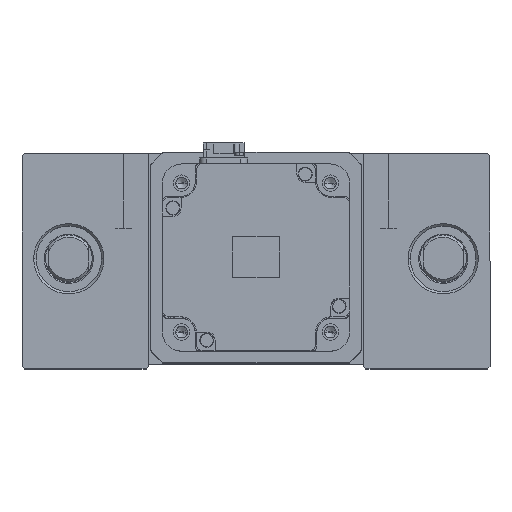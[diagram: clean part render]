
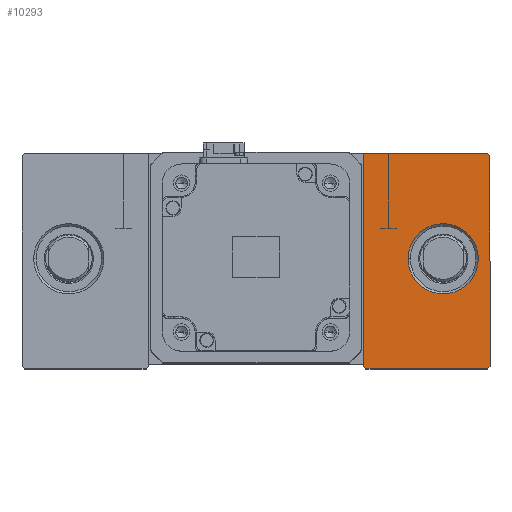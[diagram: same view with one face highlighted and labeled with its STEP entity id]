
A CAD part, top view. The second image highlights one B-rep face of the part: STEP entity #10293.
In plain terms, the highlighted planar face has unit normal (0, 0, 1).
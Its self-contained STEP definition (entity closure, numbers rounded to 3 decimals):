
#548 = AXIS2_PLACEMENT_3D ( 'NONE', #6106, #17792, #44971 ) ;
#861 = CARTESIAN_POINT ( 'NONE',  ( 46., -46., 35. ) ) ;
#911 = DIRECTION ( 'NONE',  ( 0., -1., 0. ) ) ;
#1255 = LINE ( 'NONE', #16057, #20615 ) ;
#1622 = EDGE_CURVE ( 'NONE', #10741, #15470, #42595, .T. ) ;
#1734 = DIRECTION ( 'NONE',  ( -0.707, 0.707, 0. ) ) ;
#2366 = CARTESIAN_POINT ( 'NONE',  ( 80., 0., 35. ) ) ;
#2502 = ORIENTED_EDGE ( 'NONE', *, *, #7634, .T. ) ;
#3038 = DIRECTION ( 'NONE',  ( 1., 0., 0. ) ) ;
#3700 = VERTEX_POINT ( 'NONE', #17049 ) ;
#3824 = DIRECTION ( 'NONE',  ( 0.707, -0.707, 0. ) ) ;
#4216 = VECTOR ( 'NONE', #1734, 1000. ) ;
#4484 = ORIENTED_EDGE ( 'NONE', *, *, #47811, .T. ) ;
#4574 = ORIENTED_EDGE ( 'NONE', *, *, #34009, .T. ) ;
#5190 = LINE ( 'NONE', #13729, #34954 ) ;
#5288 = CIRCLE ( 'NONE', #43554, 15. ) ;
#5610 = DIRECTION ( 'NONE',  ( 0.707, 0.707, 0. ) ) ;
#5796 = VERTEX_POINT ( 'NONE', #11182 ) ;
#6106 = CARTESIAN_POINT ( 'NONE',  ( 0., 0., 35. ) ) ;
#6239 = ORIENTED_EDGE ( 'NONE', *, *, #29839, .T. ) ;
#6259 = DIRECTION ( 'NONE',  ( 1., 0., 0. ) ) ;
#7162 = CARTESIAN_POINT ( 'NONE',  ( 46., 45., 35. ) ) ;
#7548 = EDGE_CURVE ( 'NONE', #8737, #29435, #25464, .T. ) ;
#7634 = EDGE_CURVE ( 'NONE', #3700, #46232, #1255, .T. ) ;
#8737 = VERTEX_POINT ( 'NONE', #861 ) ;
#9490 = CARTESIAN_POINT ( 'NONE',  ( 73., -73., 35. ) ) ;
#10293 = ADVANCED_FACE ( 'NONE', ( #31256, #22129 ), #41114, .T. ) ;
#10741 = VERTEX_POINT ( 'NONE', #28438 ) ;
#11182 = CARTESIAN_POINT ( 'NONE',  ( 65., 0., 35. ) ) ;
#13729 = CARTESIAN_POINT ( 'NONE',  ( 46., -47., 35. ) ) ;
#14726 = LINE ( 'NONE', #9490, #44491 ) ;
#15470 = VERTEX_POINT ( 'NONE', #7162 ) ;
#16057 = CARTESIAN_POINT ( 'NONE',  ( 100., 45., 35. ) ) ;
#16678 = AXIS2_PLACEMENT_3D ( 'NONE', #49596, #26269, #3038 ) ;
#17049 = CARTESIAN_POINT ( 'NONE',  ( 100., -46., 35. ) ) ;
#17718 = CIRCLE ( 'NONE', #16678, 15. ) ;
#17792 = DIRECTION ( 'NONE',  ( 0., 0., 1. ) ) ;
#19925 = DIRECTION ( 'NONE',  ( 0., 1., 0. ) ) ;
#20615 = VECTOR ( 'NONE', #19925, 1000. ) ;
#22129 = FACE_OUTER_BOUND ( 'NONE', #39153, .T. ) ;
#22151 = VECTOR ( 'NONE', #911, 1000. ) ;
#22556 = ORIENTED_EDGE ( 'NONE', *, *, #32410, .T. ) ;
#22873 = ORIENTED_EDGE ( 'NONE', *, *, #7548, .T. ) ;
#25077 = CARTESIAN_POINT ( 'NONE',  ( 72., 72., 35. ) ) ;
#25464 = LINE ( 'NONE', #30980, #35854 ) ;
#26269 = DIRECTION ( 'NONE',  ( 0., 0., -1. ) ) ;
#26639 = CARTESIAN_POINT ( 'NONE',  ( 47., -47., 35. ) ) ;
#28438 = CARTESIAN_POINT ( 'NONE',  ( 99., 45., 35. ) ) ;
#29435 = VERTEX_POINT ( 'NONE', #26639 ) ;
#29502 = DIRECTION ( 'NONE',  ( 0., 0., -1. ) ) ;
#29839 = EDGE_CURVE ( 'NONE', #33287, #5796, #5288, .T. ) ;
#30763 = EDGE_CURVE ( 'NONE', #29435, #37975, #5190, .T. ) ;
#30980 = CARTESIAN_POINT ( 'NONE',  ( 0., 0., 35. ) ) ;
#31256 = FACE_BOUND ( 'NONE', #38819, .T. ) ;
#31571 = ORIENTED_EDGE ( 'NONE', *, *, #30763, .T. ) ;
#32257 = EDGE_CURVE ( 'NONE', #37975, #3700, #14726, .T. ) ;
#32410 = EDGE_CURVE ( 'NONE', #5796, #33287, #17718, .T. ) ;
#33103 = DIRECTION ( 'NONE',  ( 1., 0., 0. ) ) ;
#33238 = CARTESIAN_POINT ( 'NONE',  ( 100., 44., 35. ) ) ;
#33287 = VERTEX_POINT ( 'NONE', #47620 ) ;
#33445 = VECTOR ( 'NONE', #45733, 1000. ) ;
#33974 = LINE ( 'NONE', #25077, #4216 ) ;
#34009 = EDGE_CURVE ( 'NONE', #46232, #10741, #33974, .T. ) ;
#34954 = VECTOR ( 'NONE', #33103, 1000. ) ;
#35854 = VECTOR ( 'NONE', #3824, 1000. ) ;
#36297 = CARTESIAN_POINT ( 'NONE',  ( 99., -47., 35. ) ) ;
#37975 = VERTEX_POINT ( 'NONE', #36297 ) ;
#38819 = EDGE_LOOP ( 'NONE', ( #6239, #22556 ) ) ;
#39153 = EDGE_LOOP ( 'NONE', ( #4484, #22873, #31571, #43396, #2502, #4574, #42074 ) ) ;
#41114 = PLANE ( 'NONE',  #548 ) ;
#42019 = CARTESIAN_POINT ( 'NONE',  ( 46., 45., 35. ) ) ;
#42074 = ORIENTED_EDGE ( 'NONE', *, *, #1622, .T. ) ;
#42595 = LINE ( 'NONE', #42019, #33445 ) ;
#42869 = LINE ( 'NONE', #47392, #22151 ) ;
#43396 = ORIENTED_EDGE ( 'NONE', *, *, #32257, .T. ) ;
#43554 = AXIS2_PLACEMENT_3D ( 'NONE', #2366, #29502, #6259 ) ;
#44491 = VECTOR ( 'NONE', #5610, 1000. ) ;
#44971 = DIRECTION ( 'NONE',  ( 1., 0., 0. ) ) ;
#45733 = DIRECTION ( 'NONE',  ( -1., 0., 0. ) ) ;
#46232 = VERTEX_POINT ( 'NONE', #33238 ) ;
#47392 = CARTESIAN_POINT ( 'NONE',  ( 46., 45., 35. ) ) ;
#47620 = CARTESIAN_POINT ( 'NONE',  ( 95., 0., 35. ) ) ;
#47811 = EDGE_CURVE ( 'NONE', #15470, #8737, #42869, .T. ) ;
#49596 = CARTESIAN_POINT ( 'NONE',  ( 80., 0., 35. ) ) ;
